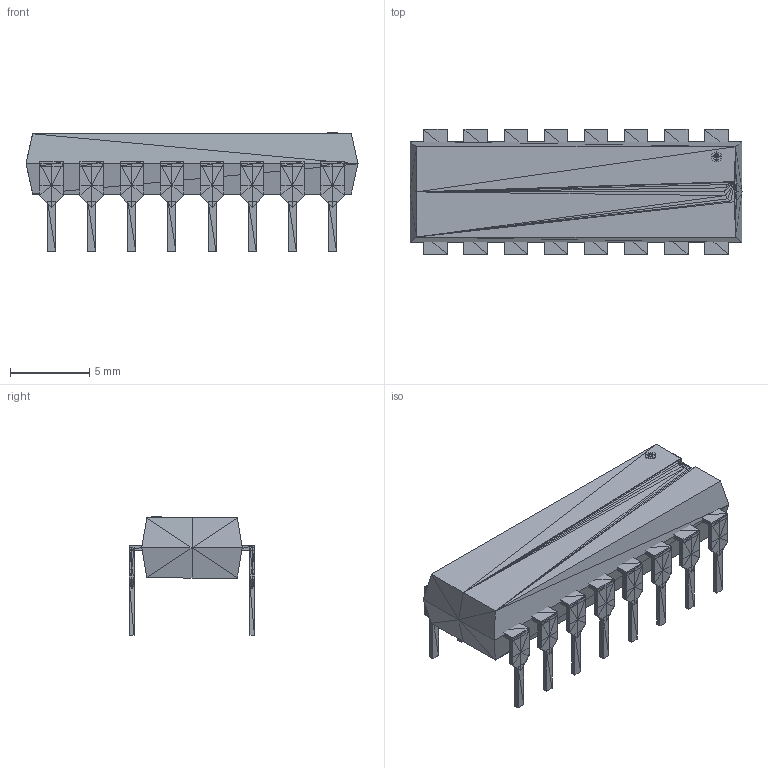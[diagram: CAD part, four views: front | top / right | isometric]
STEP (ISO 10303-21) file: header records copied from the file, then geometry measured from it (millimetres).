
FILE_DESCRIPTION(('HOOPS Exchange Step'),'2;1');
FILE_NAME('***.stp');
FILE_SCHEMA( ('AP242_MANAGED_MODEL_BASED_3D_ENGINEERING_MIM_LF {1 0 10303 442 1 1 4 }') );
Length unit declared in the file: inch
Products named in the file (19): DIP-16_2; DIP-16_3; DIP-16_4; DIP-16_5; DIP-16_6; DIP-16_7; DIP-16_8; DIP-16_9; DIP-16_10; DIP-16_11; DIP-16_12; DIP-16_13; DIP-16_14; DIP-16_15; DIP-16_16; DIP-16_17; DIP-16_18; DIP-16_19; DIP-16
Assembly tree (18 placements, depth 2):
  DIP-16
    DIP-16_2
    DIP-16_3
    DIP-16_4
    DIP-16_5
    DIP-16_6
    DIP-16_7
    DIP-16_8
    DIP-16_9
    DIP-16_10
    DIP-16_11
    DIP-16_12
    DIP-16_13
    DIP-16_14
    DIP-16_15
    DIP-16_16
    DIP-16_17
    DIP-16_18
    DIP-16_19
Bounding box: 21 x 7.91 x 7.49 mm (x, y, z)
Volume: 493.6 mm3; surface area: 759.4 mm2
Topology: 37 solids, 50 shells, 1292 faces, 1938 edges, 746 vertices
Faces by surface type: plane 1292
Entity records: 26263 total; most frequent: DIRECTION 4598, CARTESIAN_POINT 4014, ORIENTED_EDGE 3876, VECTOR 1938, LINE 1938, EDGE_CURVE 1938, AXIS2_PLACEMENT_3D 1330, PLANE 1292
